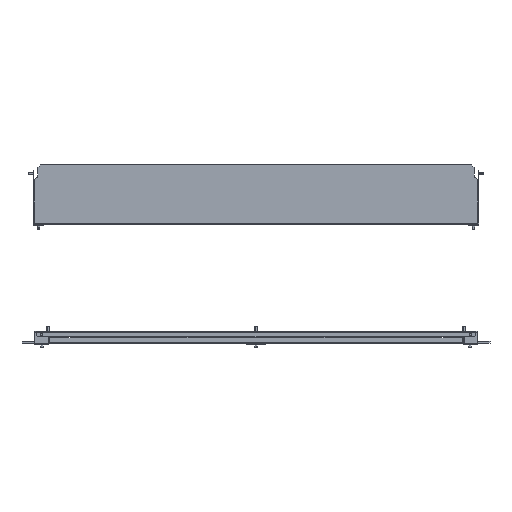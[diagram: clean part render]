
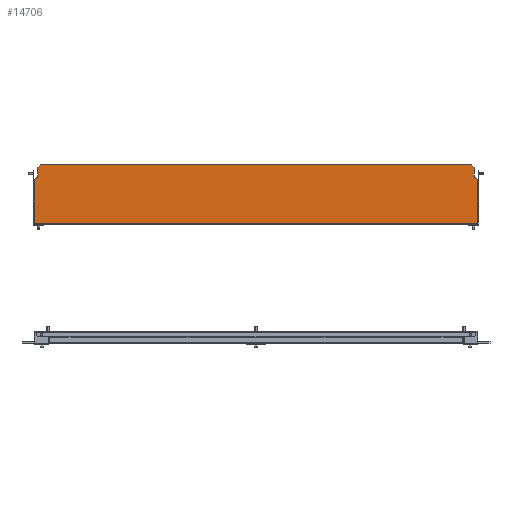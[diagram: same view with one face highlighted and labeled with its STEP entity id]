
A CAD part, front view. The second image highlights one B-rep face of the part: STEP entity #14706.
In plain terms, the highlighted planar face has unit normal (0, -1, 0).
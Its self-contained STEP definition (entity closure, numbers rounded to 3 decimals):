
#13571=CARTESIAN_POINT(' ',(447.5,49.,0.6));
#13572=VERTEX_POINT(' ',#13571);
#13586=CARTESIAN_POINT(' ',(447.5,49.,0.6));
#13591=DIRECTION(' ',(-1.,0.,0.));
#13596=VECTOR(' ',#13591,1.);
#13601=LINE('',#13586,#13596);
#13606=CARTESIAN_POINT(' ',(-447.5,49.,0.6));
#13607=VERTEX_POINT(' ',#13606);
#13611=EDGE_CURVE(' ',#13572,#13607,#13601,.T.);
#13751=CARTESIAN_POINT(' ',(447.5,49.,88.5));
#13752=VERTEX_POINT(' ',#13751);
#13766=CARTESIAN_POINT(' ',(447.5,49.,88.5));
#13771=DIRECTION(' ',(0.,0.,-1.));
#13776=VECTOR(' ',#13771,1.);
#13781=LINE('',#13766,#13776);
#13786=EDGE_CURVE(' ',#13752,#13572,#13781,.T.);
#13861=CARTESIAN_POINT(' ',(-447.5,49.,0.6));
#13866=DIRECTION(' ',(0.,0.,1.));
#13871=VECTOR(' ',#13866,1.);
#13876=LINE('',#13861,#13871);
#13881=CARTESIAN_POINT(' ',(-447.5,49.,88.5));
#13882=VERTEX_POINT(' ',#13881);
#13886=EDGE_CURVE(' ',#13607,#13882,#13876,.T.);
#14346=DIRECTION(' ',(0.,-1.,0.));
#14351=CARTESIAN_POINT(' ',(-447.5,49.,118.5));
#14356=DIRECTION(' ',(0.,0.,-1.));
#14361=AXIS2_PLACEMENT_3D(' ',#14351,#14346,#14356);
#14366=PLANE('NONE',#14361);
#14371=ORIENTED_EDGE(' ',*,*,#13786,.F.);
#14376=CARTESIAN_POINT(' ',(447.5,49.,88.5));
#14381=DIRECTION(' ',(-0.707,0.,0.707));
#14386=VECTOR(' ',#14381,1.);
#14391=LINE('',#14376,#14386);
#14396=CARTESIAN_POINT(' ',(442.5,49.,93.5));
#14397=VERTEX_POINT(' ',#14396);
#14401=EDGE_CURVE(' ',#13752,#14397,#14391,.T.);
#14406=ORIENTED_EDGE(' ',*,*,#14401,.T.);
#14411=CARTESIAN_POINT(' ',(440.5,49.,93.5));
#14416=DIRECTION(' ',(1.,0.,0.));
#14421=VECTOR(' ',#14416,1.);
#14426=LINE('',#14411,#14421);
#14431=CARTESIAN_POINT(' ',(440.5,49.,93.5));
#14432=VERTEX_POINT(' ',#14431);
#14436=EDGE_CURVE(' ',#14432,#14397,#14426,.T.);
#14441=ORIENTED_EDGE(' ',*,*,#14436,.F.);
#14446=CARTESIAN_POINT(' ',(440.5,49.,93.5));
#14451=DIRECTION(' ',(0.,0.,1.));
#14456=VECTOR(' ',#14451,1.);
#14461=LINE('',#14446,#14456);
#14466=CARTESIAN_POINT(' ',(440.5,49.,113.5));
#14467=VERTEX_POINT(' ',#14466);
#14471=EDGE_CURVE(' ',#14432,#14467,#14461,.T.);
#14476=ORIENTED_EDGE(' ',*,*,#14471,.T.);
#14481=CARTESIAN_POINT(' ',(440.5,49.,113.5));
#14486=DIRECTION(' ',(-0.707,0.,0.707));
#14491=VECTOR(' ',#14486,1.);
#14496=LINE('',#14481,#14491);
#14501=CARTESIAN_POINT(' ',(435.5,49.,118.5));
#14502=VERTEX_POINT(' ',#14501);
#14506=EDGE_CURVE(' ',#14467,#14502,#14496,.T.);
#14511=ORIENTED_EDGE(' ',*,*,#14506,.T.);
#14516=CARTESIAN_POINT(' ',(435.5,49.,118.5));
#14521=DIRECTION(' ',(-1.,0.,0.));
#14526=VECTOR(' ',#14521,1.);
#14531=LINE('',#14516,#14526);
#14536=CARTESIAN_POINT(' ',(-435.5,49.,118.5));
#14537=VERTEX_POINT(' ',#14536);
#14541=EDGE_CURVE(' ',#14502,#14537,#14531,.T.);
#14546=ORIENTED_EDGE(' ',*,*,#14541,.T.);
#14551=CARTESIAN_POINT(' ',(-435.5,49.,118.5));
#14556=DIRECTION(' ',(-0.707,0.,-0.707));
#14561=VECTOR(' ',#14556,1.);
#14566=LINE('',#14551,#14561);
#14571=CARTESIAN_POINT(' ',(-440.5,49.,113.5));
#14572=VERTEX_POINT(' ',#14571);
#14576=EDGE_CURVE(' ',#14537,#14572,#14566,.T.);
#14581=ORIENTED_EDGE(' ',*,*,#14576,.T.);
#14586=CARTESIAN_POINT(' ',(-440.5,49.,93.5));
#14591=DIRECTION(' ',(0.,0.,1.));
#14596=VECTOR(' ',#14591,1.);
#14601=LINE('',#14586,#14596);
#14606=CARTESIAN_POINT(' ',(-440.5,49.,93.5));
#14607=VERTEX_POINT(' ',#14606);
#14611=EDGE_CURVE(' ',#14607,#14572,#14601,.T.);
#14616=ORIENTED_EDGE(' ',*,*,#14611,.F.);
#14621=CARTESIAN_POINT(' ',(-440.5,49.,93.5));
#14626=DIRECTION(' ',(-1.,0.,0.));
#14631=VECTOR(' ',#14626,1.);
#14636=LINE('',#14621,#14631);
#14641=CARTESIAN_POINT(' ',(-442.5,49.,93.5));
#14642=VERTEX_POINT(' ',#14641);
#14646=EDGE_CURVE(' ',#14607,#14642,#14636,.T.);
#14651=ORIENTED_EDGE(' ',*,*,#14646,.T.);
#14656=CARTESIAN_POINT(' ',(-442.5,49.,93.5));
#14661=DIRECTION(' ',(-0.707,0.,-0.707));
#14666=VECTOR(' ',#14661,1.);
#14671=LINE('',#14656,#14666);
#14676=EDGE_CURVE(' ',#14642,#13882,#14671,.T.);
#14681=ORIENTED_EDGE(' ',*,*,#14676,.T.);
#14686=ORIENTED_EDGE(' ',*,*,#13886,.F.);
#14691=ORIENTED_EDGE(' ',*,*,#13611,.F.);
#14696=EDGE_LOOP(' ',(#14371,#14406,#14441,#14476,#14511,#14546,#14581,#14616,#14651,#14681,#14686,#14691));
#14701=FACE_OUTER_BOUND(' ',#14696,.T.);
#14706=ADVANCED_FACE('NONE',(#14701),#14366,.T.);
